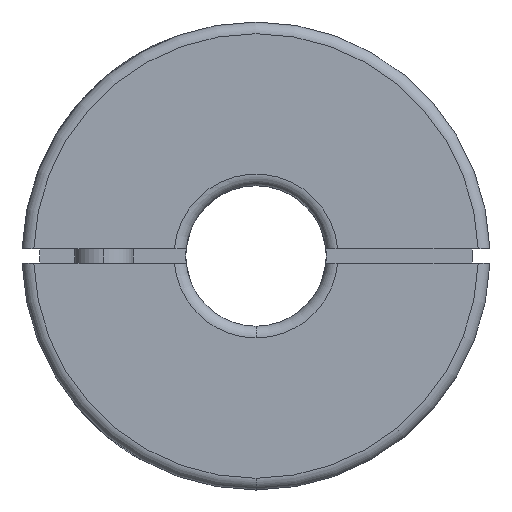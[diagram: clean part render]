
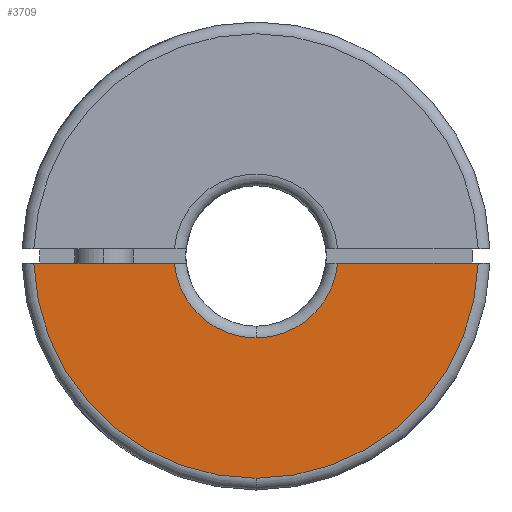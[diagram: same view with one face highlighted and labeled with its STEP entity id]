
A CAD part, left-side view. The second image highlights one B-rep face of the part: STEP entity #3709.
In plain terms, the highlighted planar face has unit normal (-1, 0, 0).
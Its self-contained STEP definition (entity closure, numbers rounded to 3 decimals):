
#1274 = DIRECTION ( 'NONE',  ( 0., -1., 0. ) ) ;
#1275 = VECTOR ( 'NONE', #1274, 1000. ) ;
#1384 = CARTESIAN_POINT ( 'NONE',  ( -16., 10., -0.3 ) ) ;
#1385 = LINE ( 'NONE', #1384, #1275 ) ;
#1671 = DIRECTION ( 'NONE',  ( 0., 0., -1. ) ) ;
#1672 = DIRECTION ( 'NONE',  ( -1., 0., 0. ) ) ;
#1673 = CARTESIAN_POINT ( 'NONE',  ( -16., 0., 0. ) ) ;
#1674 = AXIS2_PLACEMENT_3D ( 'NONE', #1673, #1672, #1671 ) ;
#1675 = CIRCLE ( 'NONE', #1674, 9.5 ) ;
#1676 = FACE_OUTER_BOUND ( 'NONE', #3710, .T. ) ;
#1677 = CARTESIAN_POINT ( 'NONE',  ( -16., 9.495, -0.3 ) ) ;
#1678 = DIRECTION ( 'NONE',  ( 0., 1., 0. ) ) ;
#1679 = VECTOR ( 'NONE', #1678, 1000. ) ;
#1680 = CARTESIAN_POINT ( 'NONE',  ( -16., 10., -0.3 ) ) ;
#1681 = LINE ( 'NONE', #1680, #1679 ) ;
#1682 = DIRECTION ( 'NONE',  ( 0., 0., -1. ) ) ;
#1683 = DIRECTION ( 'NONE',  ( 1., 0., 0. ) ) ;
#1684 = CARTESIAN_POINT ( 'NONE',  ( -16., 0., 0. ) ) ;
#1685 = AXIS2_PLACEMENT_3D ( 'NONE', #1684, #1683, #1682 ) ;
#1686 = CIRCLE ( 'NONE', #1685, 3.5 ) ;
#1687 = CARTESIAN_POINT ( 'NONE',  ( -16., 3.487, -0.3 ) ) ;
#1699 = DIRECTION ( 'NONE',  ( 0., 0., -1. ) ) ;
#1700 = DIRECTION ( 'NONE',  ( 1., 0., 0. ) ) ;
#1701 = CARTESIAN_POINT ( 'NONE',  ( -16., 10., 0. ) ) ;
#1702 = AXIS2_PLACEMENT_3D ( 'NONE', #1701, #1700, #1699 ) ;
#1703 = PLANE ( 'NONE',  #1702 ) ;
#2382 = VERTEX_POINT ( 'NONE', #4269 ) ;
#2384 = EDGE_CURVE ( 'NONE', #2385, #2382, #4268, .T. ) ;
#2385 = VERTEX_POINT ( 'NONE', #4263 ) ;
#2394 = VERTEX_POINT ( 'NONE', #4146 ) ;
#2521 = EDGE_CURVE ( 'NONE', #2522, #2394, #4570, .T. ) ;
#2522 = VERTEX_POINT ( 'NONE', #4565 ) ;
#3469 = EDGE_CURVE ( 'NONE', #2385, #2394, #1385, .T. ) ;
#3701 = EDGE_CURVE ( 'NONE', #2382, #3702, #1686, .T. ) ;
#3702 = VERTEX_POINT ( 'NONE', #1687 ) ;
#3703 = ORIENTED_EDGE ( 'NONE', *, *, #3704, .T. ) ;
#3704 = EDGE_CURVE ( 'NONE', #3702, #3705, #1681, .T. ) ;
#3705 = VERTEX_POINT ( 'NONE', #1677 ) ;
#3706 = ORIENTED_EDGE ( 'NONE', *, *, #3707, .T. ) ;
#3707 = EDGE_CURVE ( 'NONE', #3705, #2522, #1675, .T. ) ;
#3709 = ADVANCED_FACE ( 'NONE', ( #1676 ), #1703, .F. ) ;
#3710 = EDGE_LOOP ( 'NONE', ( #3711, #3712, #3713, #3703, #3706, #3714 ) ) ;
#3711 = ORIENTED_EDGE ( 'NONE', *, *, #3469, .F. ) ;
#3712 = ORIENTED_EDGE ( 'NONE', *, *, #2384, .T. ) ;
#3713 = ORIENTED_EDGE ( 'NONE', *, *, #3701, .T. ) ;
#3714 = ORIENTED_EDGE ( 'NONE', *, *, #2521, .T. ) ;
#4146 = CARTESIAN_POINT ( 'NONE',  ( -16., -9.495, -0.3 ) ) ;
#4263 = CARTESIAN_POINT ( 'NONE',  ( -16., -3.487, -0.3 ) ) ;
#4264 = DIRECTION ( 'NONE',  ( 0., 0., -1. ) ) ;
#4265 = DIRECTION ( 'NONE',  ( 1., 0., 0. ) ) ;
#4266 = CARTESIAN_POINT ( 'NONE',  ( -16., 0., 0. ) ) ;
#4267 = AXIS2_PLACEMENT_3D ( 'NONE', #4266, #4265, #4264 ) ;
#4268 = CIRCLE ( 'NONE', #4267, 3.5 ) ;
#4269 = CARTESIAN_POINT ( 'NONE',  ( -16., 0., -3.5 ) ) ;
#4565 = CARTESIAN_POINT ( 'NONE',  ( -16., 0., -9.5 ) ) ;
#4566 = DIRECTION ( 'NONE',  ( 0., 0., -1. ) ) ;
#4567 = DIRECTION ( 'NONE',  ( -1., 0., 0. ) ) ;
#4568 = CARTESIAN_POINT ( 'NONE',  ( -16., 0., 0. ) ) ;
#4569 = AXIS2_PLACEMENT_3D ( 'NONE', #4568, #4567, #4566 ) ;
#4570 = CIRCLE ( 'NONE', #4569, 9.5 ) ;
